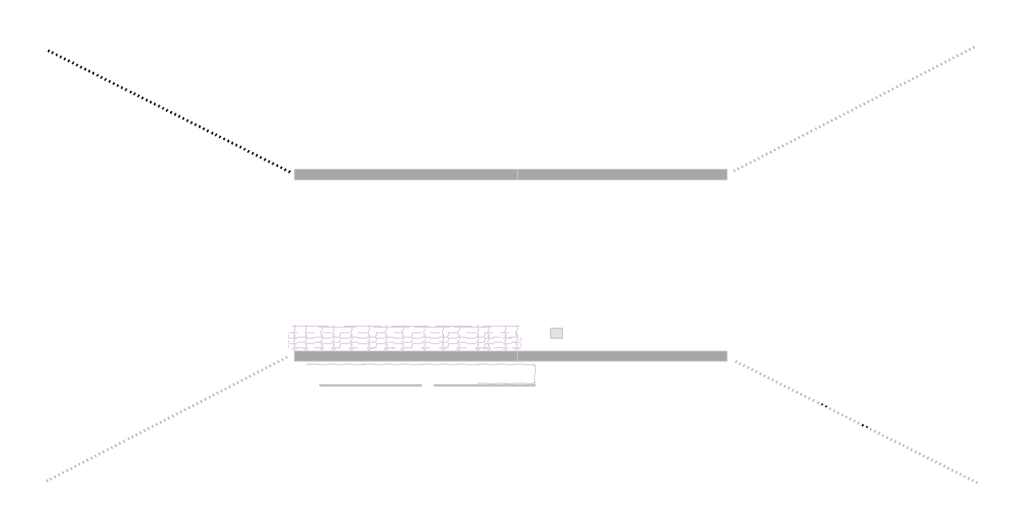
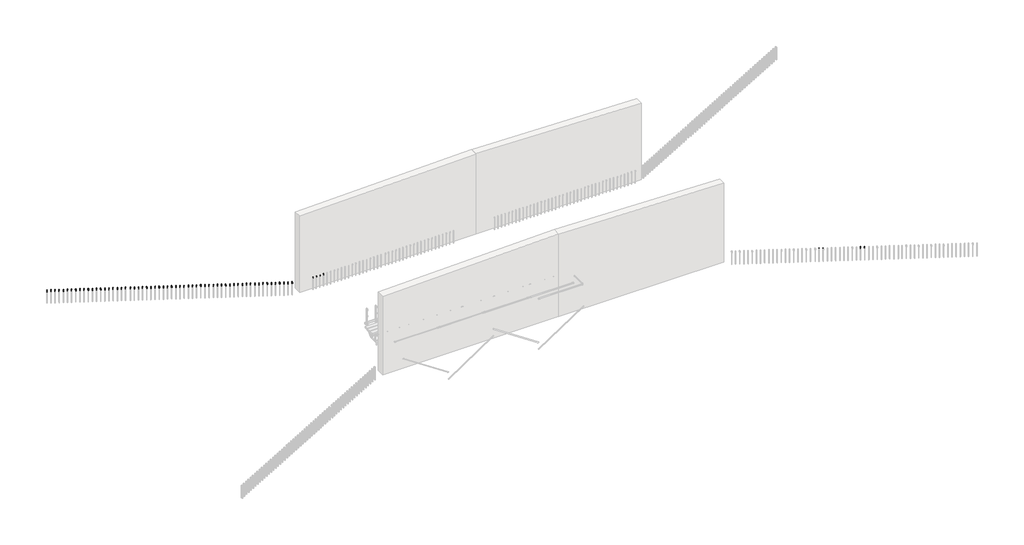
# One storey, part 5 of 7: 131 proxies.
"""IFC4 building model written with IfcOpenShell, lengths in millimetres."""

from ifc_helpers import new_model, si_unit, origin, place, context, project, spatial, transform, mapped, element, save
from components import generic_models_e9040c9c

model = new_model("IFC4")

# Units and contexts
model_context = context("Model", 3, world=origin())
ifc_project = project(units=[si_unit("LENGTHUNIT", "METRE", prefix="MILLI")], contexts=[model_context])

# Site, building, storey
site = spatial("IfcSite", under=ifc_project)
building = spatial("IfcBuilding", under=site)
storey = spatial("IfcBuildingStorey", under=building, Name="Niveau bas piédroits", Elevation=1000.0)

# Proxies
placement = place(None, origin())
generic_models_shape = generic_models_e9040c9c(model_context)
element("IfcBuildingElementProxy", 1, Name="Bouchon de sécurité vertical : Bouchon de sécurité vertical", ObjectType="Bouchon de sécurité vertical : Bouchon de sécurité vertical", at=placement, inside=storey, context=model_context, shape_type="MappedRepresentation", body=[
    mapped(generic_models_shape, transform((-22055.3075306, 10497.7080647, 1504.6594135), x_axis=(0.8933406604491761, -0.449380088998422, 0.0), y_axis=(0.449380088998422, 0.8933406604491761, 0.0), z_axis=(0.0, 0.0, 1.0))),
])
element("IfcBuildingElementProxy", 2, Name="Bouchon de sécurité vertical : Bouchon de sécurité vertical", ObjectType="Bouchon de sécurité vertical : Bouchon de sécurité vertical", at=placement, inside=storey, context=model_context, shape_type="MappedRepresentation", body=[
    mapped(generic_models_shape, transform((-22269.7092891, 10605.5592861, 1504.6594135), x_axis=(0.8933406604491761, -0.449380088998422, 0.0), y_axis=(0.449380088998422, 0.8933406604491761, 0.0), z_axis=(0.0, 0.0, 1.0))),
])
element("IfcBuildingElementProxy", 3, Name="Bouchon de sécurité vertical : Bouchon de sécurité vertical", ObjectType="Bouchon de sécurité vertical : Bouchon de sécurité vertical", at=placement, inside=storey, context=model_context, shape_type="MappedRepresentation", body=[
    mapped(generic_models_shape, transform((-22484.1110476, 10713.4105074, 1504.6594135), x_axis=(0.8933406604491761, -0.449380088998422, 0.0), y_axis=(0.449380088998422, 0.8933406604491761, 0.0), z_axis=(0.0, 0.0, 1.0))),
])
element("IfcBuildingElementProxy", 4, Name="Bouchon de sécurité vertical : Bouchon de sécurité vertical", ObjectType="Bouchon de sécurité vertical : Bouchon de sécurité vertical", at=placement, inside=storey, context=model_context, shape_type="MappedRepresentation", body=[
    mapped(generic_models_shape, transform((-22698.5128061, 10821.2617288, 1504.6594135), x_axis=(0.8933406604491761, -0.449380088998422, 0.0), y_axis=(0.449380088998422, 0.8933406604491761, 0.0), z_axis=(0.0, 0.0, 1.0))),
])
element("IfcBuildingElementProxy", 5, Name="Bouchon de sécurité vertical : Bouchon de sécurité vertical", ObjectType="Bouchon de sécurité vertical : Bouchon de sécurité vertical", at=placement, inside=storey, context=model_context, shape_type="MappedRepresentation", body=[
    mapped(generic_models_shape, transform((-22912.9145646, 10929.1129501, 1504.6594135), x_axis=(0.8933406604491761, -0.449380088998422, 0.0), y_axis=(0.449380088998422, 0.8933406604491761, 0.0), z_axis=(0.0, 0.0, 1.0))),
])
element("IfcBuildingElementProxy", 6, Name="Bouchon de sécurité vertical : Bouchon de sécurité vertical", ObjectType="Bouchon de sécurité vertical : Bouchon de sécurité vertical", at=placement, inside=storey, context=model_context, shape_type="MappedRepresentation", body=[
    mapped(generic_models_shape, transform((-23127.3163231, 11036.9641715, 1504.6594135), x_axis=(0.8933406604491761, -0.449380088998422, 0.0), y_axis=(0.449380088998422, 0.8933406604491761, 0.0), z_axis=(0.0, 0.0, 1.0))),
])
element("IfcBuildingElementProxy", 7, Name="Bouchon de sécurité vertical : Bouchon de sécurité vertical", ObjectType="Bouchon de sécurité vertical : Bouchon de sécurité vertical", at=placement, inside=storey, context=model_context, shape_type="MappedRepresentation", body=[
    mapped(generic_models_shape, transform((-23341.7180816, 11144.8153929, 1504.6594135), x_axis=(0.8933406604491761, -0.449380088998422, 0.0), y_axis=(0.449380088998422, 0.8933406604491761, 0.0), z_axis=(0.0, 0.0, 1.0))),
])
element("IfcBuildingElementProxy", 8, Name="Bouchon de sécurité vertical : Bouchon de sécurité vertical", ObjectType="Bouchon de sécurité vertical : Bouchon de sécurité vertical", at=placement, inside=storey, context=model_context, shape_type="MappedRepresentation", body=[
    mapped(generic_models_shape, transform((-23556.1198401, 11252.6666142, 1504.6594135), x_axis=(0.8933406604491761, -0.449380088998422, 0.0), y_axis=(0.449380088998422, 0.8933406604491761, 0.0), z_axis=(0.0, 0.0, 1.0))),
])
element("IfcBuildingElementProxy", 9, Name="Bouchon de sécurité vertical : Bouchon de sécurité vertical", ObjectType="Bouchon de sécurité vertical : Bouchon de sécurité vertical", at=placement, inside=storey, context=model_context, shape_type="MappedRepresentation", body=[
    mapped(generic_models_shape, transform((-23770.5215987, 11360.5178356, 1504.6594135), x_axis=(0.8933406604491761, -0.449380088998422, 0.0), y_axis=(0.449380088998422, 0.8933406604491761, 0.0), z_axis=(0.0, 0.0, 1.0))),
])
element("IfcBuildingElementProxy", 10, Name="Bouchon de sécurité vertical : Bouchon de sécurité vertical", ObjectType="Bouchon de sécurité vertical : Bouchon de sécurité vertical", at=placement, inside=storey, context=model_context, shape_type="MappedRepresentation", body=[
    mapped(generic_models_shape, transform((-23984.9233572, 11468.3690569, 1504.6594135), x_axis=(0.8933406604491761, -0.449380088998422, 0.0), y_axis=(0.449380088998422, 0.8933406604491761, 0.0), z_axis=(0.0, 0.0, 1.0))),
])
element("IfcBuildingElementProxy", 11, Name="Bouchon de sécurité vertical : Bouchon de sécurité vertical", ObjectType="Bouchon de sécurité vertical : Bouchon de sécurité vertical", at=placement, inside=storey, context=model_context, shape_type="MappedRepresentation", body=[
    mapped(generic_models_shape, transform((-24199.3251157, 11576.2202783, 1504.6594135), x_axis=(0.8933406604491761, -0.449380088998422, 0.0), y_axis=(0.449380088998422, 0.8933406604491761, 0.0), z_axis=(0.0, 0.0, 1.0))),
])
element("IfcBuildingElementProxy", 12, Name="Bouchon de sécurité vertical : Bouchon de sécurité vertical", ObjectType="Bouchon de sécurité vertical : Bouchon de sécurité vertical", at=placement, inside=storey, context=model_context, shape_type="MappedRepresentation", body=[
    mapped(generic_models_shape, transform((-24413.7268742, 11684.0714997, 1504.6594135), x_axis=(0.8933406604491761, -0.449380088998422, 0.0), y_axis=(0.449380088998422, 0.8933406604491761, 0.0), z_axis=(0.0, 0.0, 1.0))),
])
element("IfcBuildingElementProxy", 13, Name="Bouchon de sécurité vertical : Bouchon de sécurité vertical", ObjectType="Bouchon de sécurité vertical : Bouchon de sécurité vertical", at=placement, inside=storey, context=model_context, shape_type="MappedRepresentation", body=[
    mapped(generic_models_shape, transform((-24610.2618195, 11782.9351192, 1504.6594135), x_axis=(0.8933406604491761, -0.449380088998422, 0.0), y_axis=(0.449380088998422, 0.8933406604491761, 0.0), z_axis=(0.0, 0.0, 1.0))),
])
element("IfcBuildingElementProxy", 14, Name="Bouchon de sécurité vertical : Bouchon de sécurité vertical", ObjectType="Bouchon de sécurité vertical : Bouchon de sécurité vertical", at=placement, inside=storey, context=model_context, shape_type="MappedRepresentation", body=[
    mapped(generic_models_shape, transform((-21840.9057721, 10389.8568434, 1504.6594135), x_axis=(0.8933406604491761, -0.449380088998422, 0.0), y_axis=(0.449380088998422, 0.8933406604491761, 0.0), z_axis=(0.0, 0.0, 1.0))),
])
element("IfcBuildingElementProxy", 15, Name="Bouchon de sécurité vertical : Bouchon de sécurité vertical", ObjectType="Bouchon de sécurité vertical : Bouchon de sécurité vertical", at=placement, inside=storey, context=model_context, shape_type="MappedRepresentation", body=[
    mapped(generic_models_shape, transform((-21626.5040136, 10282.005622, 1504.6594135), x_axis=(0.8933406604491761, -0.449380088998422, 0.0), y_axis=(0.449380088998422, 0.8933406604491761, 0.0), z_axis=(0.0, 0.0, 1.0))),
])
element("IfcBuildingElementProxy", 16, Name="Bouchon de sécurité vertical : Bouchon de sécurité vertical", ObjectType="Bouchon de sécurité vertical : Bouchon de sécurité vertical", at=placement, inside=storey, context=model_context, shape_type="MappedRepresentation", body=[
    mapped(generic_models_shape, transform((-20304.2830758, 9616.8844773, 1504.6594135), x_axis=(0.8933406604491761, -0.449380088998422, 0.0), y_axis=(0.449380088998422, 0.8933406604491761, 0.0), z_axis=(0.0, 0.0, 1.0))),
])
element("IfcBuildingElementProxy", 17, Name="Bouchon de sécurité vertical : Bouchon de sécurité vertical", ObjectType="Bouchon de sécurité vertical : Bouchon de sécurité vertical", at=placement, inside=storey, context=model_context, shape_type="MappedRepresentation", body=[
    mapped(generic_models_shape, transform((-20554.495221, 9742.7495152, 1504.6594135), x_axis=(0.8933406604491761, -0.449380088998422, 0.0), y_axis=(0.449380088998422, 0.8933406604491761, 0.0), z_axis=(0.0, 0.0, 1.0))),
])
element("IfcBuildingElementProxy", 18, Name="Bouchon de sécurité vertical : Bouchon de sécurité vertical", ObjectType="Bouchon de sécurité vertical : Bouchon de sécurité vertical", at=placement, inside=storey, context=model_context, shape_type="MappedRepresentation", body=[
    mapped(generic_models_shape, transform((-20768.8969795, 9850.6007366, 1504.6594135), x_axis=(0.8933406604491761, -0.449380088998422, 0.0), y_axis=(0.449380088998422, 0.8933406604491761, 0.0), z_axis=(0.0, 0.0, 1.0))),
])
element("IfcBuildingElementProxy", 19, Name="Bouchon de sécurité vertical : Bouchon de sécurité vertical", ObjectType="Bouchon de sécurité vertical : Bouchon de sécurité vertical", at=placement, inside=storey, context=model_context, shape_type="MappedRepresentation", body=[
    mapped(generic_models_shape, transform((-20983.2987381, 9958.4519579, 1504.6594135), x_axis=(0.8933406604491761, -0.449380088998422, 0.0), y_axis=(0.449380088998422, 0.8933406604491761, 0.0), z_axis=(0.0, 0.0, 1.0))),
])
element("IfcBuildingElementProxy", 20, Name="Bouchon de sécurité vertical : Bouchon de sécurité vertical", ObjectType="Bouchon de sécurité vertical : Bouchon de sécurité vertical", at=placement, inside=storey, context=model_context, shape_type="MappedRepresentation", body=[
    mapped(generic_models_shape, transform((-21197.7004966, 10066.3031793, 1504.6594135), x_axis=(0.8933406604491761, -0.449380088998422, 0.0), y_axis=(0.449380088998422, 0.8933406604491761, 0.0), z_axis=(0.0, 0.0, 1.0))),
])
element("IfcBuildingElementProxy", 21, Name="Bouchon de sécurité vertical : Bouchon de sécurité vertical", ObjectType="Bouchon de sécurité vertical : Bouchon de sécurité vertical", at=placement, inside=storey, context=model_context, shape_type="MappedRepresentation", body=[
    mapped(generic_models_shape, transform((-21412.1022551, 10174.1544006, 1504.6594135), x_axis=(0.8933406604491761, -0.449380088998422, 0.0), y_axis=(0.449380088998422, 0.8933406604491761, 0.0), z_axis=(0.0, 0.0, 1.0))),
])
element("IfcBuildingElementProxy", 22, Name="Bouchon de sécurité vertical : Bouchon de sécurité vertical", ObjectType="Bouchon de sécurité vertical : Bouchon de sécurité vertical", at=placement, inside=storey, context=model_context, shape_type="MappedRepresentation", body=[
    mapped(generic_models_shape, transform((-20107.8248908, 9518.0594707, 1504.6594135), x_axis=(0.8933406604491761, -0.449380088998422, 0.0), y_axis=(0.449380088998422, 0.8933406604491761, 0.0), z_axis=(0.0, 0.0, 1.0))),
])
element("IfcBuildingElementProxy", 23, Name="Bouchon de sécurité vertical : Bouchon de sécurité vertical", ObjectType="Bouchon de sécurité vertical : Bouchon de sécurité vertical", at=placement, inside=storey, context=model_context, shape_type="MappedRepresentation", body=[
    mapped(generic_models_shape, transform((-19893.4231323, 9410.2082493, 1504.6594135), x_axis=(0.8933406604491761, -0.449380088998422, 0.0), y_axis=(0.449380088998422, 0.8933406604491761, 0.0), z_axis=(0.0, 0.0, 1.0))),
])
element("IfcBuildingElementProxy", 24, Name="Bouchon de sécurité vertical : Bouchon de sécurité vertical", ObjectType="Bouchon de sécurité vertical : Bouchon de sécurité vertical", at=placement, inside=storey, context=model_context, shape_type="MappedRepresentation", body=[
    mapped(generic_models_shape, transform((-17320.6020302, 8115.993593, 1504.6594135), x_axis=(0.8933406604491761, -0.449380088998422, 0.0), y_axis=(0.449380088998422, 0.8933406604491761, 0.0), z_axis=(0.0, 0.0, 1.0))),
])
element("IfcBuildingElementProxy", 25, Name="Bouchon de sécurité vertical : Bouchon de sécurité vertical", ObjectType="Bouchon de sécurité vertical : Bouchon de sécurité vertical", at=placement, inside=storey, context=model_context, shape_type="MappedRepresentation", body=[
    mapped(generic_models_shape, transform((-17535.0037887, 8223.8448144, 1504.6594135), x_axis=(0.8933406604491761, -0.449380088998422, 0.0), y_axis=(0.449380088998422, 0.8933406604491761, 0.0), z_axis=(0.0, 0.0, 1.0))),
])
element("IfcBuildingElementProxy", 26, Name="Bouchon de sécurité vertical : Bouchon de sécurité vertical", ObjectType="Bouchon de sécurité vertical : Bouchon de sécurité vertical", at=placement, inside=storey, context=model_context, shape_type="MappedRepresentation", body=[
    mapped(generic_models_shape, transform((-17749.4055472, 8331.6960357, 1504.6594135), x_axis=(0.8933406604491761, -0.449380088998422, 0.0), y_axis=(0.449380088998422, 0.8933406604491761, 0.0), z_axis=(0.0, 0.0, 1.0))),
])
element("IfcBuildingElementProxy", 27, Name="Bouchon de sécurité vertical : Bouchon de sécurité vertical", ObjectType="Bouchon de sécurité vertical : Bouchon de sécurité vertical", at=placement, inside=storey, context=model_context, shape_type="MappedRepresentation", body=[
    mapped(generic_models_shape, transform((-17963.8073057, 8439.5472571, 1504.6594135), x_axis=(0.8933406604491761, -0.449380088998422, 0.0), y_axis=(0.449380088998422, 0.8933406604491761, 0.0), z_axis=(0.0, 0.0, 1.0))),
])
element("IfcBuildingElementProxy", 28, Name="Bouchon de sécurité vertical : Bouchon de sécurité vertical", ObjectType="Bouchon de sécurité vertical : Bouchon de sécurité vertical", at=placement, inside=storey, context=model_context, shape_type="MappedRepresentation", body=[
    mapped(generic_models_shape, transform((-18178.2090642, 8547.3984785, 1504.6594135), x_axis=(0.8933406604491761, -0.449380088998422, 0.0), y_axis=(0.449380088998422, 0.8933406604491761, 0.0), z_axis=(0.0, 0.0, 1.0))),
])
element("IfcBuildingElementProxy", 29, Name="Bouchon de sécurité vertical : Bouchon de sécurité vertical", ObjectType="Bouchon de sécurité vertical : Bouchon de sécurité vertical", at=placement, inside=storey, context=model_context, shape_type="MappedRepresentation", body=[
    mapped(generic_models_shape, transform((-18392.6108228, 8655.2496998, 1504.6594135), x_axis=(0.8933406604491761, -0.449380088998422, 0.0), y_axis=(0.449380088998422, 0.8933406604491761, 0.0), z_axis=(0.0, 0.0, 1.0))),
])
element("IfcBuildingElementProxy", 30, Name="Bouchon de sécurité vertical : Bouchon de sécurité vertical", ObjectType="Bouchon de sécurité vertical : Bouchon de sécurité vertical", at=placement, inside=storey, context=model_context, shape_type="MappedRepresentation", body=[
    mapped(generic_models_shape, transform((-17106.2002717, 8008.1423717, 1504.6594135), x_axis=(0.8933406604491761, -0.449380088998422, 0.0), y_axis=(0.449380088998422, 0.8933406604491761, 0.0), z_axis=(0.0, 0.0, 1.0))),
])
element("IfcBuildingElementProxy", 31, Name="Bouchon de sécurité vertical : Bouchon de sécurité vertical", ObjectType="Bouchon de sécurité vertical : Bouchon de sécurité vertical", at=placement, inside=storey, context=model_context, shape_type="MappedRepresentation", body=[
    mapped(generic_models_shape, transform((-16891.7985132, 7900.2911503, 1504.6594135), x_axis=(0.8933406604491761, -0.449380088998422, 0.0), y_axis=(0.449380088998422, 0.8933406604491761, 0.0), z_axis=(0.0, 0.0, 1.0))),
])
element("IfcBuildingElementProxy", 32, Name="Bouchon de sécurité vertical : Bouchon de sécurité vertical", ObjectType="Bouchon de sécurité vertical : Bouchon de sécurité vertical", at=placement, inside=storey, context=model_context, shape_type="MappedRepresentation", body=[
    mapped(generic_models_shape, transform((-19679.0213738, 9302.357028, 1504.6594135), x_axis=(0.8933406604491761, -0.449380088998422, 0.0), y_axis=(0.449380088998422, 0.8933406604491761, 0.0), z_axis=(0.0, 0.0, 1.0))),
])
element("IfcBuildingElementProxy", 33, Name="Bouchon de sécurité vertical : Bouchon de sécurité vertical", ObjectType="Bouchon de sécurité vertical : Bouchon de sécurité vertical", at=placement, inside=storey, context=model_context, shape_type="MappedRepresentation", body=[
    mapped(generic_models_shape, transform((-19464.6196153, 9194.5058066, 1504.6594135), x_axis=(0.8933406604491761, -0.449380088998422, 0.0), y_axis=(0.449380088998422, 0.8933406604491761, 0.0), z_axis=(0.0, 0.0, 1.0))),
])
element("IfcBuildingElementProxy", 34, Name="Bouchon de sécurité vertical : Bouchon de sécurité vertical", ObjectType="Bouchon de sécurité vertical : Bouchon de sécurité vertical", at=placement, inside=storey, context=model_context, shape_type="MappedRepresentation", body=[
    mapped(generic_models_shape, transform((-19250.2178568, 9086.6545853, 1504.6594135), x_axis=(0.8933406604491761, -0.449380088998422, 0.0), y_axis=(0.449380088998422, 0.8933406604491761, 0.0), z_axis=(0.0, 0.0, 1.0))),
])
element("IfcBuildingElementProxy", 35, Name="Bouchon de sécurité vertical : Bouchon de sécurité vertical", ObjectType="Bouchon de sécurité vertical : Bouchon de sécurité vertical", at=placement, inside=storey, context=model_context, shape_type="MappedRepresentation", body=[
    mapped(generic_models_shape, transform((-19035.8160983, 8978.8033639, 1504.6594135), x_axis=(0.8933406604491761, -0.449380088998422, 0.0), y_axis=(0.449380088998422, 0.8933406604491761, 0.0), z_axis=(0.0, 0.0, 1.0))),
])
element("IfcBuildingElementProxy", 36, Name="Bouchon de sécurité vertical : Bouchon de sécurité vertical", ObjectType="Bouchon de sécurité vertical : Bouchon de sécurité vertical", at=placement, inside=storey, context=model_context, shape_type="MappedRepresentation", body=[
    mapped(generic_models_shape, transform((-18821.8951532, 8871.1940077, 1504.6594135), x_axis=(0.8933406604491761, -0.449380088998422, 0.0), y_axis=(0.449380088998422, 0.8933406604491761, 0.0), z_axis=(0.0, 0.0, 1.0))),
])
element("IfcBuildingElementProxy", 37, Name="Bouchon de sécurité vertical : Bouchon de sécurité vertical", ObjectType="Bouchon de sécurité vertical : Bouchon de sécurité vertical", at=placement, inside=storey, context=model_context, shape_type="MappedRepresentation", body=[
    mapped(generic_models_shape, transform((-18607.4933947, 8763.3427864, 1504.6594135), x_axis=(0.8933406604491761, -0.449380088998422, 0.0), y_axis=(0.449380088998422, 0.8933406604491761, 0.0), z_axis=(0.0, 0.0, 1.0))),
])
element("IfcBuildingElementProxy", 38, Name="Bouchon de sécurité vertical : Bouchon de sécurité vertical", ObjectType="Bouchon de sécurité vertical : Bouchon de sécurité vertical", at=placement, inside=storey, context=model_context, shape_type="MappedRepresentation", body=[
    mapped(generic_models_shape, transform((-16677.3967547, 7792.4399289, 1504.6594135), x_axis=(0.8933406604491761, -0.449380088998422, 0.0), y_axis=(0.449380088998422, 0.8933406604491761, 0.0), z_axis=(0.0, 0.0, 1.0))),
])
element("IfcBuildingElementProxy", 39, Name="Bouchon de sécurité vertical : Bouchon de sécurité vertical", ObjectType="Bouchon de sécurité vertical : Bouchon de sécurité vertical", at=placement, inside=storey, context=model_context, shape_type="MappedRepresentation", body=[
    mapped(generic_models_shape, transform((-16462.9949962, 7684.5887076, 1504.6594135), x_axis=(0.8933406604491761, -0.449380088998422, 0.0), y_axis=(0.449380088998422, 0.8933406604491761, 0.0), z_axis=(0.0, 0.0, 1.0))),
])
element("IfcBuildingElementProxy", 40, Name="Bouchon de sécurité vertical : Bouchon de sécurité vertical", ObjectType="Bouchon de sécurité vertical : Bouchon de sécurité vertical", at=placement, inside=storey, context=model_context, shape_type="MappedRepresentation", body=[
    mapped(generic_models_shape, transform((-16248.5932377, 7576.7374862, 1504.6594135), x_axis=(0.8933406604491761, -0.449380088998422, 0.0), y_axis=(0.449380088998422, 0.8933406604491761, 0.0), z_axis=(0.0, 0.0, 1.0))),
])
element("IfcBuildingElementProxy", 41, Name="Bouchon de sécurité vertical : Bouchon de sécurité vertical", ObjectType="Bouchon de sécurité vertical : Bouchon de sécurité vertical", at=placement, inside=storey, context=model_context, shape_type="MappedRepresentation", body=[
    mapped(generic_models_shape, transform((-22030.5916257, 10546.841801, 1504.6594135), x_axis=(0.8933406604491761, -0.449380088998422, 0.0), y_axis=(0.449380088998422, 0.8933406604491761, 0.0), z_axis=(0.0, 0.0, 1.0))),
])
element("IfcBuildingElementProxy", 42, Name="Bouchon de sécurité vertical : Bouchon de sécurité vertical", ObjectType="Bouchon de sécurité vertical : Bouchon de sécurité vertical", at=placement, inside=storey, context=model_context, shape_type="MappedRepresentation", body=[
    mapped(generic_models_shape, transform((-22244.9933842, 10654.6930224, 1504.6594135), x_axis=(0.8933406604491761, -0.449380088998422, 0.0), y_axis=(0.449380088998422, 0.8933406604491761, 0.0), z_axis=(0.0, 0.0, 1.0))),
])
element("IfcBuildingElementProxy", 43, Name="Bouchon de sécurité vertical : Bouchon de sécurité vertical", ObjectType="Bouchon de sécurité vertical : Bouchon de sécurité vertical", at=placement, inside=storey, context=model_context, shape_type="MappedRepresentation", body=[
    mapped(generic_models_shape, transform((-22459.3951427, 10762.5442438, 1504.6594135), x_axis=(0.8933406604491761, -0.449380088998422, 0.0), y_axis=(0.449380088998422, 0.8933406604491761, 0.0), z_axis=(0.0, 0.0, 1.0))),
])
element("IfcBuildingElementProxy", 44, Name="Bouchon de sécurité vertical : Bouchon de sécurité vertical", ObjectType="Bouchon de sécurité vertical : Bouchon de sécurité vertical", at=placement, inside=storey, context=model_context, shape_type="MappedRepresentation", body=[
    mapped(generic_models_shape, transform((-22673.7969012, 10870.3954651, 1504.6594135), x_axis=(0.8933406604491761, -0.449380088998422, 0.0), y_axis=(0.449380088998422, 0.8933406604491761, 0.0), z_axis=(0.0, 0.0, 1.0))),
])
element("IfcBuildingElementProxy", 45, Name="Bouchon de sécurité vertical : Bouchon de sécurité vertical", ObjectType="Bouchon de sécurité vertical : Bouchon de sécurité vertical", at=placement, inside=storey, context=model_context, shape_type="MappedRepresentation", body=[
    mapped(generic_models_shape, transform((-22888.1986597, 10978.2466865, 1504.6594135), x_axis=(0.8933406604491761, -0.449380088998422, 0.0), y_axis=(0.449380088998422, 0.8933406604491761, 0.0), z_axis=(0.0, 0.0, 1.0))),
])
element("IfcBuildingElementProxy", 46, Name="Bouchon de sécurité vertical : Bouchon de sécurité vertical", ObjectType="Bouchon de sécurité vertical : Bouchon de sécurité vertical", at=placement, inside=storey, context=model_context, shape_type="MappedRepresentation", body=[
    mapped(generic_models_shape, transform((-23102.6004182, 11086.0979078, 1504.6594135), x_axis=(0.8933406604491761, -0.449380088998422, 0.0), y_axis=(0.449380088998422, 0.8933406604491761, 0.0), z_axis=(0.0, 0.0, 1.0))),
])
element("IfcBuildingElementProxy", 47, Name="Bouchon de sécurité vertical : Bouchon de sécurité vertical", ObjectType="Bouchon de sécurité vertical : Bouchon de sécurité vertical", at=placement, inside=storey, context=model_context, shape_type="MappedRepresentation", body=[
    mapped(generic_models_shape, transform((-23317.0021767, 11193.9491292, 1504.6594135), x_axis=(0.8933406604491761, -0.449380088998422, 0.0), y_axis=(0.449380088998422, 0.8933406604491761, 0.0), z_axis=(0.0, 0.0, 1.0))),
])
element("IfcBuildingElementProxy", 48, Name="Bouchon de sécurité vertical : Bouchon de sécurité vertical", ObjectType="Bouchon de sécurité vertical : Bouchon de sécurité vertical", at=placement, inside=storey, context=model_context, shape_type="MappedRepresentation", body=[
    mapped(generic_models_shape, transform((-23531.4039353, 11301.8003506, 1504.6594135), x_axis=(0.8933406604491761, -0.449380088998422, 0.0), y_axis=(0.449380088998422, 0.8933406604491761, 0.0), z_axis=(0.0, 0.0, 1.0))),
])
element("IfcBuildingElementProxy", 49, Name="Bouchon de sécurité vertical : Bouchon de sécurité vertical", ObjectType="Bouchon de sécurité vertical : Bouchon de sécurité vertical", at=placement, inside=storey, context=model_context, shape_type="MappedRepresentation", body=[
    mapped(generic_models_shape, transform((-23745.8056938, 11409.6515719, 1504.6594135), x_axis=(0.8933406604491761, -0.449380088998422, 0.0), y_axis=(0.449380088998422, 0.8933406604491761, 0.0), z_axis=(0.0, 0.0, 1.0))),
])
element("IfcBuildingElementProxy", 50, Name="Bouchon de sécurité vertical : Bouchon de sécurité vertical", ObjectType="Bouchon de sécurité vertical : Bouchon de sécurité vertical", at=placement, inside=storey, context=model_context, shape_type="MappedRepresentation", body=[
    mapped(generic_models_shape, transform((-23960.2074523, 11517.5027933, 1504.6594135), x_axis=(0.8933406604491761, -0.449380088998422, 0.0), y_axis=(0.449380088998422, 0.8933406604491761, 0.0), z_axis=(0.0, 0.0, 1.0))),
])
element("IfcBuildingElementProxy", 51, Name="Bouchon de sécurité vertical : Bouchon de sécurité vertical", ObjectType="Bouchon de sécurité vertical : Bouchon de sécurité vertical", at=placement, inside=storey, context=model_context, shape_type="MappedRepresentation", body=[
    mapped(generic_models_shape, transform((-24174.6092108, 11625.3540146, 1504.6594135), x_axis=(0.8933406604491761, -0.449380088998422, 0.0), y_axis=(0.449380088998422, 0.8933406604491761, 0.0), z_axis=(0.0, 0.0, 1.0))),
])
element("IfcBuildingElementProxy", 52, Name="Bouchon de sécurité vertical : Bouchon de sécurité vertical", ObjectType="Bouchon de sécurité vertical : Bouchon de sécurité vertical", at=placement, inside=storey, context=model_context, shape_type="MappedRepresentation", body=[
    mapped(generic_models_shape, transform((-24389.0109693, 11733.205236, 1504.6594135), x_axis=(0.8933406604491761, -0.449380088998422, 0.0), y_axis=(0.449380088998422, 0.8933406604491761, 0.0), z_axis=(0.0, 0.0, 1.0))),
])
element("IfcBuildingElementProxy", 53, Name="Bouchon de sécurité vertical : Bouchon de sécurité vertical", ObjectType="Bouchon de sécurité vertical : Bouchon de sécurité vertical", at=placement, inside=storey, context=model_context, shape_type="MappedRepresentation", body=[
    mapped(generic_models_shape, transform((-24585.5459146, 11832.0688556, 1504.6594135), x_axis=(0.8933406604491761, -0.449380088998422, 0.0), y_axis=(0.449380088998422, 0.8933406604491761, 0.0), z_axis=(0.0, 0.0, 1.0))),
])
element("IfcBuildingElementProxy", 54, Name="Bouchon de sécurité vertical : Bouchon de sécurité vertical", ObjectType="Bouchon de sécurité vertical : Bouchon de sécurité vertical", at=placement, inside=storey, context=model_context, shape_type="MappedRepresentation", body=[
    mapped(generic_models_shape, transform((-21816.1898672, 10438.9905797, 1504.6594135), x_axis=(0.8933406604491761, -0.449380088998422, 0.0), y_axis=(0.449380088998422, 0.8933406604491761, 0.0), z_axis=(0.0, 0.0, 1.0))),
])
element("IfcBuildingElementProxy", 55, Name="Bouchon de sécurité vertical : Bouchon de sécurité vertical", ObjectType="Bouchon de sécurité vertical : Bouchon de sécurité vertical", at=placement, inside=storey, context=model_context, shape_type="MappedRepresentation", body=[
    mapped(generic_models_shape, transform((-21601.7881087, 10331.1393583, 1504.6594135), x_axis=(0.8933406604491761, -0.449380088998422, 0.0), y_axis=(0.449380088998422, 0.8933406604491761, 0.0), z_axis=(0.0, 0.0, 1.0))),
])
element("IfcBuildingElementProxy", 56, Name="Bouchon de sécurité vertical : Bouchon de sécurité vertical", ObjectType="Bouchon de sécurité vertical : Bouchon de sécurité vertical", at=placement, inside=storey, context=model_context, shape_type="MappedRepresentation", body=[
    mapped(generic_models_shape, transform((-20279.567171, 9666.0182136, 1504.6594135), x_axis=(0.8933406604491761, -0.449380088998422, 0.0), y_axis=(0.449380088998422, 0.8933406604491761, 0.0), z_axis=(0.0, 0.0, 1.0))),
])
element("IfcBuildingElementProxy", 57, Name="Bouchon de sécurité vertical : Bouchon de sécurité vertical", ObjectType="Bouchon de sécurité vertical : Bouchon de sécurité vertical", at=placement, inside=storey, context=model_context, shape_type="MappedRepresentation", body=[
    mapped(generic_models_shape, transform((-20529.7793161, 9791.8832515, 1504.6594135), x_axis=(0.8933406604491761, -0.449380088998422, 0.0), y_axis=(0.449380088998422, 0.8933406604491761, 0.0), z_axis=(0.0, 0.0, 1.0))),
])
element("IfcBuildingElementProxy", 58, Name="Bouchon de sécurité vertical : Bouchon de sécurité vertical", ObjectType="Bouchon de sécurité vertical : Bouchon de sécurité vertical", at=placement, inside=storey, context=model_context, shape_type="MappedRepresentation", body=[
    mapped(generic_models_shape, transform((-20744.1810747, 9899.7344729, 1504.6594135), x_axis=(0.8933406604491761, -0.449380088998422, 0.0), y_axis=(0.449380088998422, 0.8933406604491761, 0.0), z_axis=(0.0, 0.0, 1.0))),
])
element("IfcBuildingElementProxy", 59, Name="Bouchon de sécurité vertical : Bouchon de sécurité vertical", ObjectType="Bouchon de sécurité vertical : Bouchon de sécurité vertical", at=placement, inside=storey, context=model_context, shape_type="MappedRepresentation", body=[
    mapped(generic_models_shape, transform((-20958.5828332, 10007.5856942, 1504.6594135), x_axis=(0.8933406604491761, -0.449380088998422, 0.0), y_axis=(0.449380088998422, 0.8933406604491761, 0.0), z_axis=(0.0, 0.0, 1.0))),
])
element("IfcBuildingElementProxy", 60, Name="Bouchon de sécurité vertical : Bouchon de sécurité vertical", ObjectType="Bouchon de sécurité vertical : Bouchon de sécurité vertical", at=placement, inside=storey, context=model_context, shape_type="MappedRepresentation", body=[
    mapped(generic_models_shape, transform((-21172.9845917, 10115.4369156, 1504.6594135), x_axis=(0.8933406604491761, -0.449380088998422, 0.0), y_axis=(0.449380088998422, 0.8933406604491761, 0.0), z_axis=(0.0, 0.0, 1.0))),
])
element("IfcBuildingElementProxy", 61, Name="Bouchon de sécurité vertical : Bouchon de sécurité vertical", ObjectType="Bouchon de sécurité vertical : Bouchon de sécurité vertical", at=placement, inside=storey, context=model_context, shape_type="MappedRepresentation", body=[
    mapped(generic_models_shape, transform((-21387.3863502, 10223.288137, 1504.6594135), x_axis=(0.8933406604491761, -0.449380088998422, 0.0), y_axis=(0.449380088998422, 0.8933406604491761, 0.0), z_axis=(0.0, 0.0, 1.0))),
])
element("IfcBuildingElementProxy", 62, Name="Bouchon de sécurité vertical : Bouchon de sécurité vertical", ObjectType="Bouchon de sécurité vertical : Bouchon de sécurité vertical", at=placement, inside=storey, context=model_context, shape_type="MappedRepresentation", body=[
    mapped(generic_models_shape, transform((-20083.1089859, 9567.193207, 1504.6594135), x_axis=(0.8933406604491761, -0.449380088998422, 0.0), y_axis=(0.449380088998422, 0.8933406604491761, 0.0), z_axis=(0.0, 0.0, 1.0))),
])
element("IfcBuildingElementProxy", 63, Name="Bouchon de sécurité vertical : Bouchon de sécurité vertical", ObjectType="Bouchon de sécurité vertical : Bouchon de sécurité vertical", at=placement, inside=storey, context=model_context, shape_type="MappedRepresentation", body=[
    mapped(generic_models_shape, transform((-19868.7072274, 9459.3419857, 1504.6594135), x_axis=(0.8933406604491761, -0.449380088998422, 0.0), y_axis=(0.449380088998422, 0.8933406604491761, 0.0), z_axis=(0.0, 0.0, 1.0))),
])
element("IfcBuildingElementProxy", 64, Name="Bouchon de sécurité vertical : Bouchon de sécurité vertical", ObjectType="Bouchon de sécurité vertical : Bouchon de sécurité vertical", at=placement, inside=storey, context=model_context, shape_type="MappedRepresentation", body=[
    mapped(generic_models_shape, transform((-17295.8861253, 8165.1273293, 1504.6594135), x_axis=(0.8933406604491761, -0.449380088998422, 0.0), y_axis=(0.449380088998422, 0.8933406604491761, 0.0), z_axis=(0.0, 0.0, 1.0))),
])
element("IfcBuildingElementProxy", 65, Name="Bouchon de sécurité vertical : Bouchon de sécurité vertical", ObjectType="Bouchon de sécurité vertical : Bouchon de sécurité vertical", at=placement, inside=storey, context=model_context, shape_type="MappedRepresentation", body=[
    mapped(generic_models_shape, transform((-17510.2878838, 8272.9785507, 1504.6594135), x_axis=(0.8933406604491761, -0.449380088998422, 0.0), y_axis=(0.449380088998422, 0.8933406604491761, 0.0), z_axis=(0.0, 0.0, 1.0))),
])
element("IfcBuildingElementProxy", 66, Name="Bouchon de sécurité vertical : Bouchon de sécurité vertical", ObjectType="Bouchon de sécurité vertical : Bouchon de sécurité vertical", at=placement, inside=storey, context=model_context, shape_type="MappedRepresentation", body=[
    mapped(generic_models_shape, transform((-17724.6896423, 8380.8297721, 1504.6594135), x_axis=(0.8933406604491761, -0.449380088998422, 0.0), y_axis=(0.449380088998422, 0.8933406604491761, 0.0), z_axis=(0.0, 0.0, 1.0))),
])
element("IfcBuildingElementProxy", 67, Name="Bouchon de sécurité vertical : Bouchon de sécurité vertical", ObjectType="Bouchon de sécurité vertical : Bouchon de sécurité vertical", at=placement, inside=storey, context=model_context, shape_type="MappedRepresentation", body=[
    mapped(generic_models_shape, transform((-17939.0914008, 8488.6809934, 1504.6594135), x_axis=(0.8933406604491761, -0.449380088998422, 0.0), y_axis=(0.449380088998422, 0.8933406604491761, 0.0), z_axis=(0.0, 0.0, 1.0))),
])
element("IfcBuildingElementProxy", 68, Name="Bouchon de sécurité vertical : Bouchon de sécurité vertical", ObjectType="Bouchon de sécurité vertical : Bouchon de sécurité vertical", at=placement, inside=storey, context=model_context, shape_type="MappedRepresentation", body=[
    mapped(generic_models_shape, transform((-18153.4931593, 8596.5322148, 1504.6594135), x_axis=(0.8933406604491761, -0.449380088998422, 0.0), y_axis=(0.449380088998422, 0.8933406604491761, 0.0), z_axis=(0.0, 0.0, 1.0))),
])
element("IfcBuildingElementProxy", 69, Name="Bouchon de sécurité vertical : Bouchon de sécurité vertical", ObjectType="Bouchon de sécurité vertical : Bouchon de sécurité vertical", at=placement, inside=storey, context=model_context, shape_type="MappedRepresentation", body=[
    mapped(generic_models_shape, transform((-18367.8949179, 8704.3834361, 1504.6594135), x_axis=(0.8933406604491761, -0.449380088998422, 0.0), y_axis=(0.449380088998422, 0.8933406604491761, 0.0), z_axis=(0.0, 0.0, 1.0))),
])
element("IfcBuildingElementProxy", 70, Name="Bouchon de sécurité vertical : Bouchon de sécurité vertical", ObjectType="Bouchon de sécurité vertical : Bouchon de sécurité vertical", at=placement, inside=storey, context=model_context, shape_type="MappedRepresentation", body=[
    mapped(generic_models_shape, transform((-17081.4843668, 8057.276108, 1504.6594135), x_axis=(0.8933406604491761, -0.449380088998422, 0.0), y_axis=(0.449380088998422, 0.8933406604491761, 0.0), z_axis=(0.0, 0.0, 1.0))),
])
element("IfcBuildingElementProxy", 71, Name="Bouchon de sécurité vertical : Bouchon de sécurité vertical", ObjectType="Bouchon de sécurité vertical : Bouchon de sécurité vertical", at=placement, inside=storey, context=model_context, shape_type="MappedRepresentation", body=[
    mapped(generic_models_shape, transform((-16867.0826083, 7949.4248866, 1504.6594135), x_axis=(0.8933406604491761, -0.449380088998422, 0.0), y_axis=(0.449380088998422, 0.8933406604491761, 0.0), z_axis=(0.0, 0.0, 1.0))),
])
element("IfcBuildingElementProxy", 72, Name="Bouchon de sécurité vertical : Bouchon de sécurité vertical", ObjectType="Bouchon de sécurité vertical : Bouchon de sécurité vertical", at=placement, inside=storey, context=model_context, shape_type="MappedRepresentation", body=[
    mapped(generic_models_shape, transform((-19654.3054689, 9351.4907643, 1504.6594135), x_axis=(0.8933406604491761, -0.449380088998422, 0.0), y_axis=(0.449380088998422, 0.8933406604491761, 0.0), z_axis=(0.0, 0.0, 1.0))),
])
element("IfcBuildingElementProxy", 73, Name="Bouchon de sécurité vertical : Bouchon de sécurité vertical", ObjectType="Bouchon de sécurité vertical : Bouchon de sécurité vertical", at=placement, inside=storey, context=model_context, shape_type="MappedRepresentation", body=[
    mapped(generic_models_shape, transform((-19439.9037104, 9243.6395429, 1504.6594135), x_axis=(0.8933406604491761, -0.449380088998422, 0.0), y_axis=(0.449380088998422, 0.8933406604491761, 0.0), z_axis=(0.0, 0.0, 1.0))),
])
element("IfcBuildingElementProxy", 74, Name="Bouchon de sécurité vertical : Bouchon de sécurité vertical", ObjectType="Bouchon de sécurité vertical : Bouchon de sécurité vertical", at=placement, inside=storey, context=model_context, shape_type="MappedRepresentation", body=[
    mapped(generic_models_shape, transform((-19225.5019519, 9135.7883216, 1504.6594135), x_axis=(0.8933406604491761, -0.449380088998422, 0.0), y_axis=(0.449380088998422, 0.8933406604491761, 0.0), z_axis=(0.0, 0.0, 1.0))),
])
element("IfcBuildingElementProxy", 75, Name="Bouchon de sécurité vertical : Bouchon de sécurité vertical", ObjectType="Bouchon de sécurité vertical : Bouchon de sécurité vertical", at=placement, inside=storey, context=model_context, shape_type="MappedRepresentation", body=[
    mapped(generic_models_shape, transform((-19011.1001934, 9027.9371002, 1504.6594135), x_axis=(0.8933406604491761, -0.449380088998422, 0.0), y_axis=(0.449380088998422, 0.8933406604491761, 0.0), z_axis=(0.0, 0.0, 1.0))),
])
element("IfcBuildingElementProxy", 76, Name="Bouchon de sécurité vertical : Bouchon de sécurité vertical", ObjectType="Bouchon de sécurité vertical : Bouchon de sécurité vertical", at=placement, inside=storey, context=model_context, shape_type="MappedRepresentation", body=[
    mapped(generic_models_shape, transform((-18797.1792483, 8920.327744, 1504.6594135), x_axis=(0.8933406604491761, -0.449380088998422, 0.0), y_axis=(0.449380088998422, 0.8933406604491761, 0.0), z_axis=(0.0, 0.0, 1.0))),
])
element("IfcBuildingElementProxy", 77, Name="Bouchon de sécurité vertical : Bouchon de sécurité vertical", ObjectType="Bouchon de sécurité vertical : Bouchon de sécurité vertical", at=placement, inside=storey, context=model_context, shape_type="MappedRepresentation", body=[
    mapped(generic_models_shape, transform((-18582.7774898, 8812.4765227, 1504.6594135), x_axis=(0.8933406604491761, -0.449380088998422, 0.0), y_axis=(0.449380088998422, 0.8933406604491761, 0.0), z_axis=(0.0, 0.0, 1.0))),
])
element("IfcBuildingElementProxy", 78, Name="Bouchon de sécurité vertical : Bouchon de sécurité vertical", ObjectType="Bouchon de sécurité vertical : Bouchon de sécurité vertical", at=placement, inside=storey, context=model_context, shape_type="MappedRepresentation", body=[
    mapped(generic_models_shape, transform((-16652.6808498, 7841.5736653, 1504.6594135), x_axis=(0.8933406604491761, -0.449380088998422, 0.0), y_axis=(0.449380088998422, 0.8933406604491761, 0.0), z_axis=(0.0, 0.0, 1.0))),
])
element("IfcBuildingElementProxy", 79, Name="Bouchon de sécurité vertical : Bouchon de sécurité vertical", ObjectType="Bouchon de sécurité vertical : Bouchon de sécurité vertical", at=placement, inside=storey, context=model_context, shape_type="MappedRepresentation", body=[
    mapped(generic_models_shape, transform((-16438.2790913, 7733.7224439, 1504.6594135), x_axis=(0.8933406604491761, -0.449380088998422, 0.0), y_axis=(0.449380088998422, 0.8933406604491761, 0.0), z_axis=(0.0, 0.0, 1.0))),
])
element("IfcBuildingElementProxy", 80, Name="Bouchon de sécurité vertical : Bouchon de sécurité vertical", ObjectType="Bouchon de sécurité vertical : Bouchon de sécurité vertical", at=placement, inside=storey, context=model_context, shape_type="MappedRepresentation", body=[
    mapped(generic_models_shape, transform((-16223.8773328, 7625.8712225, 1504.6594135), x_axis=(0.8933406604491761, -0.449380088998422, 0.0), y_axis=(0.449380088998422, 0.8933406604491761, 0.0), z_axis=(0.0, 0.0, 1.0))),
])
element("IfcBuildingElementProxy", 81, Name="Bouchon de sécurité vertical : Bouchon de sécurité vertical", ObjectType="Bouchon de sécurité vertical : Bouchon de sécurité vertical", at=placement, inside=storey, context=model_context, shape_type="MappedRepresentation", body=[
    mapped(generic_models_shape, transform((-13032.5668601, 5958.9691658, 1504.6594135), x_axis=(0.8933406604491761, -0.449380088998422, 0.0), y_axis=(0.449380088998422, 0.8933406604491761, 0.0), z_axis=(0.0, 0.0, 1.0))),
])
element("IfcBuildingElementProxy", 82, Name="Bouchon de sécurité vertical : Bouchon de sécurité vertical", ObjectType="Bouchon de sécurité vertical : Bouchon de sécurité vertical", at=placement, inside=storey, context=model_context, shape_type="MappedRepresentation", body=[
    mapped(generic_models_shape, transform((-13246.9686186, 6066.8203872, 1504.6594135), x_axis=(0.8933406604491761, -0.449380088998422, 0.0), y_axis=(0.449380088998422, 0.8933406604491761, 0.0), z_axis=(0.0, 0.0, 1.0))),
])
element("IfcBuildingElementProxy", 83, Name="Bouchon de sécurité vertical : Bouchon de sécurité vertical", ObjectType="Bouchon de sécurité vertical : Bouchon de sécurité vertical", at=placement, inside=storey, context=model_context, shape_type="MappedRepresentation", body=[
    mapped(generic_models_shape, transform((-13461.3703771, 6174.6716085, 1504.6594135), x_axis=(0.8933406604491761, -0.449380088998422, 0.0), y_axis=(0.449380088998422, 0.8933406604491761, 0.0), z_axis=(0.0, 0.0, 1.0))),
])
element("IfcBuildingElementProxy", 84, Name="Bouchon de sécurité vertical : Bouchon de sécurité vertical", ObjectType="Bouchon de sécurité vertical : Bouchon de sécurité vertical", at=placement, inside=storey, context=model_context, shape_type="MappedRepresentation", body=[
    mapped(generic_models_shape, transform((-13675.7721356, 6282.5228299, 1504.6594135), x_axis=(0.8933406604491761, -0.449380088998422, 0.0), y_axis=(0.449380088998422, 0.8933406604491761, 0.0), z_axis=(0.0, 0.0, 1.0))),
])
element("IfcBuildingElementProxy", 85, Name="Bouchon de sécurité vertical : Bouchon de sécurité vertical", ObjectType="Bouchon de sécurité vertical : Bouchon de sécurité vertical", at=placement, inside=storey, context=model_context, shape_type="MappedRepresentation", body=[
    mapped(generic_models_shape, transform((-13890.1738941, 6390.3740513, 1504.6594135), x_axis=(0.8933406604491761, -0.449380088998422, 0.0), y_axis=(0.449380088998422, 0.8933406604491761, 0.0), z_axis=(0.0, 0.0, 1.0))),
])
element("IfcBuildingElementProxy", 86, Name="Bouchon de sécurité vertical : Bouchon de sécurité vertical", ObjectType="Bouchon de sécurité vertical : Bouchon de sécurité vertical", at=placement, inside=storey, context=model_context, shape_type="MappedRepresentation", body=[
    mapped(generic_models_shape, transform((-14104.5756526, 6498.2252726, 1504.6594135), x_axis=(0.8933406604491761, -0.449380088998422, 0.0), y_axis=(0.449380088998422, 0.8933406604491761, 0.0), z_axis=(0.0, 0.0, 1.0))),
])
element("IfcBuildingElementProxy", 87, Name="Bouchon de sécurité vertical : Bouchon de sécurité vertical", ObjectType="Bouchon de sécurité vertical : Bouchon de sécurité vertical", at=placement, inside=storey, context=model_context, shape_type="MappedRepresentation", body=[
    mapped(generic_models_shape, transform((-12818.1651015, 5851.1179445, 1504.6594135), x_axis=(0.8933406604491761, -0.449380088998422, 0.0), y_axis=(0.449380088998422, 0.8933406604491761, 0.0), z_axis=(0.0, 0.0, 1.0))),
])
element("IfcBuildingElementProxy", 88, Name="Bouchon de sécurité vertical : Bouchon de sécurité vertical", ObjectType="Bouchon de sécurité vertical : Bouchon de sécurité vertical", at=placement, inside=storey, context=model_context, shape_type="MappedRepresentation", body=[
    mapped(generic_models_shape, transform((-12603.763343, 5743.2667231, 1504.6594135), x_axis=(0.8933406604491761, -0.449380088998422, 0.0), y_axis=(0.449380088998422, 0.8933406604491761, 0.0), z_axis=(0.0, 0.0, 1.0))),
])
element("IfcBuildingElementProxy", 89, Name="Bouchon de sécurité vertical : Bouchon de sécurité vertical", ObjectType="Bouchon de sécurité vertical : Bouchon de sécurité vertical", at=placement, inside=storey, context=model_context, shape_type="MappedRepresentation", body=[
    mapped(generic_models_shape, transform((-14533.8599831, 6714.1695805, 1504.6594135), x_axis=(0.8933406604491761, -0.449380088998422, 0.0), y_axis=(0.449380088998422, 0.8933406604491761, 0.0), z_axis=(0.0, 0.0, 1.0))),
])
element("IfcBuildingElementProxy", 90, Name="Bouchon de sécurité vertical : Bouchon de sécurité vertical", ObjectType="Bouchon de sécurité vertical : Bouchon de sécurité vertical", at=placement, inside=storey, context=model_context, shape_type="MappedRepresentation", body=[
    mapped(generic_models_shape, transform((-14319.4582246, 6606.3183592, 1504.6594135), x_axis=(0.8933406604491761, -0.449380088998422, 0.0), y_axis=(0.449380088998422, 0.8933406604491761, 0.0), z_axis=(0.0, 0.0, 1.0))),
])
element("IfcBuildingElementProxy", 91, Name="Bouchon de sécurité vertical : Bouchon de sécurité vertical", ObjectType="Bouchon de sécurité vertical : Bouchon de sécurité vertical", at=placement, inside=storey, context=model_context, shape_type="MappedRepresentation", body=[
    mapped(generic_models_shape, transform((-12389.3615845, 5635.4155017, 1504.6594135), x_axis=(0.8933406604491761, -0.449380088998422, 0.0), y_axis=(0.449380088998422, 0.8933406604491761, 0.0), z_axis=(0.0, 0.0, 1.0))),
])
element("IfcBuildingElementProxy", 92, Name="Bouchon de sécurité vertical : Bouchon de sécurité vertical", ObjectType="Bouchon de sécurité vertical : Bouchon de sécurité vertical", at=placement, inside=storey, context=model_context, shape_type="MappedRepresentation", body=[
    mapped(generic_models_shape, transform((-12174.959826, 5527.5642804, 1504.6594135), x_axis=(0.8933406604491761, -0.449380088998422, 0.0), y_axis=(0.449380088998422, 0.8933406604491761, 0.0), z_axis=(0.0, 0.0, 1.0))),
])
element("IfcBuildingElementProxy", 93, Name="Bouchon de sécurité vertical : Bouchon de sécurité vertical", ObjectType="Bouchon de sécurité vertical : Bouchon de sécurité vertical", at=placement, inside=storey, context=model_context, shape_type="MappedRepresentation", body=[
    mapped(generic_models_shape, transform((-11960.5580675, 5419.713059, 1504.6594135), x_axis=(0.8933406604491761, -0.449380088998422, 0.0), y_axis=(0.449380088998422, 0.8933406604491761, 0.0), z_axis=(0.0, 0.0, 1.0))),
])
element("IfcBuildingElementProxy", 94, Name="Bouchon de sécurité vertical : Bouchon de sécurité vertical", ObjectType="Bouchon de sécurité vertical : Bouchon de sécurité vertical", at=placement, inside=storey, context=model_context, shape_type="MappedRepresentation", body=[
    mapped(generic_models_shape, transform((-13007.8509552, 6008.1029022, 1504.6594135), x_axis=(0.8933406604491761, -0.449380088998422, 0.0), y_axis=(0.449380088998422, 0.8933406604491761, 0.0), z_axis=(0.0, 0.0, 1.0))),
])
element("IfcBuildingElementProxy", 95, Name="Bouchon de sécurité vertical : Bouchon de sécurité vertical", ObjectType="Bouchon de sécurité vertical : Bouchon de sécurité vertical", at=placement, inside=storey, context=model_context, shape_type="MappedRepresentation", body=[
    mapped(generic_models_shape, transform((-13222.2527137, 6115.9541235, 1504.6594135), x_axis=(0.8933406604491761, -0.449380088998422, 0.0), y_axis=(0.449380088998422, 0.8933406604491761, 0.0), z_axis=(0.0, 0.0, 1.0))),
])
element("IfcBuildingElementProxy", 96, Name="Bouchon de sécurité vertical : Bouchon de sécurité vertical", ObjectType="Bouchon de sécurité vertical : Bouchon de sécurité vertical", at=placement, inside=storey, context=model_context, shape_type="MappedRepresentation", body=[
    mapped(generic_models_shape, transform((-13436.6544722, 6223.8053449, 1504.6594135), x_axis=(0.8933406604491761, -0.449380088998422, 0.0), y_axis=(0.449380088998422, 0.8933406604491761, 0.0), z_axis=(0.0, 0.0, 1.0))),
])
element("IfcBuildingElementProxy", 97, Name="Bouchon de sécurité vertical : Bouchon de sécurité vertical", ObjectType="Bouchon de sécurité vertical : Bouchon de sécurité vertical", at=placement, inside=storey, context=model_context, shape_type="MappedRepresentation", body=[
    mapped(generic_models_shape, transform((-13651.0562307, 6331.6565662, 1504.6594135), x_axis=(0.8933406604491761, -0.449380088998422, 0.0), y_axis=(0.449380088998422, 0.8933406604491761, 0.0), z_axis=(0.0, 0.0, 1.0))),
])
element("IfcBuildingElementProxy", 98, Name="Bouchon de sécurité vertical : Bouchon de sécurité vertical", ObjectType="Bouchon de sécurité vertical : Bouchon de sécurité vertical", at=placement, inside=storey, context=model_context, shape_type="MappedRepresentation", body=[
    mapped(generic_models_shape, transform((-13865.4579892, 6439.5077876, 1504.6594135), x_axis=(0.8933406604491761, -0.449380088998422, 0.0), y_axis=(0.449380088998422, 0.8933406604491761, 0.0), z_axis=(0.0, 0.0, 1.0))),
])
element("IfcBuildingElementProxy", 99, Name="Bouchon de sécurité vertical : Bouchon de sécurité vertical", ObjectType="Bouchon de sécurité vertical : Bouchon de sécurité vertical", at=placement, inside=storey, context=model_context, shape_type="MappedRepresentation", body=[
    mapped(generic_models_shape, transform((-14079.8597477, 6547.3590089, 1504.6594135), x_axis=(0.8933406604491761, -0.449380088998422, 0.0), y_axis=(0.449380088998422, 0.8933406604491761, 0.0), z_axis=(0.0, 0.0, 1.0))),
])
element("IfcBuildingElementProxy", 100, Name="Bouchon de sécurité vertical : Bouchon de sécurité vertical", ObjectType="Bouchon de sécurité vertical : Bouchon de sécurité vertical", at=placement, inside=storey, context=model_context, shape_type="MappedRepresentation", body=[
    mapped(generic_models_shape, transform((-12793.4491967, 5900.2516808, 1504.6594135), x_axis=(0.8933406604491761, -0.449380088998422, 0.0), y_axis=(0.449380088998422, 0.8933406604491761, 0.0), z_axis=(0.0, 0.0, 1.0))),
])
element("IfcBuildingElementProxy", 101, Name="Bouchon de sécurité vertical : Bouchon de sécurité vertical", ObjectType="Bouchon de sécurité vertical : Bouchon de sécurité vertical", at=placement, inside=storey, context=model_context, shape_type="MappedRepresentation", body=[
    mapped(generic_models_shape, transform((-12579.0474381, 5792.4004594, 1504.6594135), x_axis=(0.8933406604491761, -0.449380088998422, 0.0), y_axis=(0.449380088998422, 0.8933406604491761, 0.0), z_axis=(0.0, 0.0, 1.0))),
])
element("IfcBuildingElementProxy", 102, Name="Bouchon de sécurité vertical : Bouchon de sécurité vertical", ObjectType="Bouchon de sécurité vertical : Bouchon de sécurité vertical", at=placement, inside=storey, context=model_context, shape_type="MappedRepresentation", body=[
    mapped(generic_models_shape, transform((-14509.1440782, 6763.3033168, 1504.6594135), x_axis=(0.8933406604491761, -0.449380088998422, 0.0), y_axis=(0.449380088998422, 0.8933406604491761, 0.0), z_axis=(0.0, 0.0, 1.0))),
])
element("IfcBuildingElementProxy", 103, Name="Bouchon de sécurité vertical : Bouchon de sécurité vertical", ObjectType="Bouchon de sécurité vertical : Bouchon de sécurité vertical", at=placement, inside=storey, context=model_context, shape_type="MappedRepresentation", body=[
    mapped(generic_models_shape, transform((-14294.7423197, 6655.4520955, 1504.6594135), x_axis=(0.8933406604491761, -0.449380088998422, 0.0), y_axis=(0.449380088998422, 0.8933406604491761, 0.0), z_axis=(0.0, 0.0, 1.0))),
])
element("IfcBuildingElementProxy", 104, Name="Bouchon de sécurité vertical : Bouchon de sécurité vertical", ObjectType="Bouchon de sécurité vertical : Bouchon de sécurité vertical", at=placement, inside=storey, context=model_context, shape_type="MappedRepresentation", body=[
    mapped(generic_models_shape, transform((-12364.6456796, 5684.5492381, 1504.6594135), x_axis=(0.8933406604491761, -0.449380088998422, 0.0), y_axis=(0.449380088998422, 0.8933406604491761, 0.0), z_axis=(0.0, 0.0, 1.0))),
])
element("IfcBuildingElementProxy", 105, Name="Bouchon de sécurité vertical : Bouchon de sécurité vertical", ObjectType="Bouchon de sécurité vertical : Bouchon de sécurité vertical", at=placement, inside=storey, context=model_context, shape_type="MappedRepresentation", body=[
    mapped(generic_models_shape, transform((-12150.2439211, 5576.6980167, 1504.6594135), x_axis=(0.8933406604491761, -0.449380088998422, 0.0), y_axis=(0.449380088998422, 0.8933406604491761, 0.0), z_axis=(0.0, 0.0, 1.0))),
])
element("IfcBuildingElementProxy", 106, Name="Bouchon de sécurité vertical : Bouchon de sécurité vertical", ObjectType="Bouchon de sécurité vertical : Bouchon de sécurité vertical", at=placement, inside=storey, context=model_context, shape_type="MappedRepresentation", body=[
    mapped(generic_models_shape, transform((-11935.8421626, 5468.8467954, 1504.6594135), x_axis=(0.8933406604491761, -0.449380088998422, 0.0), y_axis=(0.449380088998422, 0.8933406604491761, 0.0), z_axis=(0.0, 0.0, 1.0))),
])
element("IfcBuildingElementProxy", 107, Name="Bouchon de sécurité vertical : Bouchon de sécurité vertical", ObjectType="Bouchon de sécurité vertical : Bouchon de sécurité vertical", at=placement, inside=storey, context=model_context, shape_type="MappedRepresentation", body=[
    mapped(generic_models_shape, transform((-14747.7015489, 6823.1273005, 1504.6594135), x_axis=(0.8933406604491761, -0.449380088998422, 0.0), y_axis=(0.449380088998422, 0.8933406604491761, 0.0), z_axis=(0.0, 0.0, 1.0))),
])
element("IfcBuildingElementProxy", 108, Name="Bouchon de sécurité vertical : Bouchon de sécurité vertical", ObjectType="Bouchon de sécurité vertical : Bouchon de sécurité vertical", at=placement, inside=storey, context=model_context, shape_type="MappedRepresentation", body=[
    mapped(generic_models_shape, transform((-14722.985644, 6872.2610368, 1504.6594135), x_axis=(0.8933406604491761, -0.449380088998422, 0.0), y_axis=(0.449380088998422, 0.8933406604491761, 0.0), z_axis=(0.0, 0.0, 1.0))),
])
element("IfcBuildingElementProxy", 109, Name="Bouchon de sécurité vertical : Bouchon de sécurité vertical", ObjectType="Bouchon de sécurité vertical : Bouchon de sécurité vertical", at=placement, inside=storey, context=model_context, shape_type="MappedRepresentation", body=[
    mapped(generic_models_shape, transform((-14965.0786486, 6928.5494865, 1504.6594135), x_axis=(0.8933406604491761, -0.449380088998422, 0.0), y_axis=(0.449380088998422, 0.8933406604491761, 0.0), z_axis=(0.0, 0.0, 1.0))),
])
element("IfcBuildingElementProxy", 110, Name="Bouchon de sécurité vertical : Bouchon de sécurité vertical", ObjectType="Bouchon de sécurité vertical : Bouchon de sécurité vertical", at=placement, inside=storey, context=model_context, shape_type="MappedRepresentation", body=[
    mapped(generic_models_shape, transform((-14940.3627437, 6977.6832228, 1504.6594135), x_axis=(0.8933406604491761, -0.449380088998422, 0.0), y_axis=(0.449380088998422, 0.8933406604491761, 0.0), z_axis=(0.0, 0.0, 1.0))),
])
element("IfcBuildingElementProxy", 111, Name="Bouchon de sécurité vertical : Bouchon de sécurité vertical", ObjectType="Bouchon de sécurité vertical : Bouchon de sécurité vertical", at=placement, inside=storey, context=model_context, shape_type="MappedRepresentation", body=[
    mapped(generic_models_shape, transform((-15177.2536858, 7037.2940956, 1504.6594135), x_axis=(0.8933406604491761, -0.449380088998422, 0.0), y_axis=(0.449380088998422, 0.8933406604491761, 0.0), z_axis=(0.0, 0.0, 1.0))),
])
element("IfcBuildingElementProxy", 112, Name="Bouchon de sécurité vertical : Bouchon de sécurité vertical", ObjectType="Bouchon de sécurité vertical : Bouchon de sécurité vertical", at=placement, inside=storey, context=model_context, shape_type="MappedRepresentation", body=[
    mapped(generic_models_shape, transform((-15152.5377809, 7086.4278319, 1504.6594135), x_axis=(0.8933406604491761, -0.449380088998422, 0.0), y_axis=(0.449380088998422, 0.8933406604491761, 0.0), z_axis=(0.0, 0.0, 1.0))),
])
element("IfcBuildingElementProxy", 113, Name="Bouchon de sécurité vertical : Bouchon de sécurité vertical", ObjectType="Bouchon de sécurité vertical : Bouchon de sécurité vertical", at=placement, inside=storey, context=model_context, shape_type="MappedRepresentation", body=[
    mapped(generic_models_shape, transform((-15391.6554443, 7145.145317, 1504.6594135), x_axis=(0.8933406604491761, -0.449380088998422, 0.0), y_axis=(0.449380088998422, 0.8933406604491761, 0.0), z_axis=(0.0, 0.0, 1.0))),
])
element("IfcBuildingElementProxy", 114, Name="Bouchon de sécurité vertical : Bouchon de sécurité vertical", ObjectType="Bouchon de sécurité vertical : Bouchon de sécurité vertical", at=placement, inside=storey, context=model_context, shape_type="MappedRepresentation", body=[
    mapped(generic_models_shape, transform((-15366.9395394, 7194.2790533, 1504.6594135), x_axis=(0.8933406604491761, -0.449380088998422, 0.0), y_axis=(0.449380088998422, 0.8933406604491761, 0.0), z_axis=(0.0, 0.0, 1.0))),
])
element("IfcBuildingElementProxy", 115, Name="Bouchon de sécurité vertical : Bouchon de sécurité vertical", ObjectType="Bouchon de sécurité vertical : Bouchon de sécurité vertical", at=placement, inside=storey, context=model_context, shape_type="MappedRepresentation", body=[
    mapped(generic_models_shape, transform((-15607.3337058, 7251.7077488, 1504.6594135), x_axis=(0.8933406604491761, -0.449380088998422, 0.0), y_axis=(0.449380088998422, 0.8933406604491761, 0.0), z_axis=(0.0, 0.0, 1.0))),
])
element("IfcBuildingElementProxy", 116, Name="Bouchon de sécurité vertical : Bouchon de sécurité vertical", ObjectType="Bouchon de sécurité vertical : Bouchon de sécurité vertical", at=placement, inside=storey, context=model_context, shape_type="MappedRepresentation", body=[
    mapped(generic_models_shape, transform((-15582.6178009, 7300.8414852, 1504.6594135), x_axis=(0.8933406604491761, -0.449380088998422, 0.0), y_axis=(0.449380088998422, 0.8933406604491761, 0.0), z_axis=(0.0, 0.0, 1.0))),
])
element("IfcBuildingElementProxy", 117, Name="Bouchon de sécurité vertical : Bouchon de sécurité vertical", ObjectType="Bouchon de sécurité vertical : Bouchon de sécurité vertical", at=placement, inside=storey, context=model_context, shape_type="MappedRepresentation", body=[
    mapped(generic_models_shape, transform((-15819.508743, 7360.452358, 1504.6594135), x_axis=(0.8933406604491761, -0.449380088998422, 0.0), y_axis=(0.449380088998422, 0.8933406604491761, 0.0), z_axis=(0.0, 0.0, 1.0))),
])
element("IfcBuildingElementProxy", 118, Name="Bouchon de sécurité vertical : Bouchon de sécurité vertical", ObjectType="Bouchon de sécurité vertical : Bouchon de sécurité vertical", at=placement, inside=storey, context=model_context, shape_type="MappedRepresentation", body=[
    mapped(generic_models_shape, transform((-15794.7928381, 7409.5860943, 1504.6594135), x_axis=(0.8933406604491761, -0.449380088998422, 0.0), y_axis=(0.449380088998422, 0.8933406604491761, 0.0), z_axis=(0.0, 0.0, 1.0))),
])
element("IfcBuildingElementProxy", 119, Name="Bouchon de sécurité vertical : Bouchon de sécurité vertical", ObjectType="Bouchon de sécurité vertical : Bouchon de sécurité vertical", at=placement, inside=storey, context=model_context, shape_type="MappedRepresentation", body=[
    mapped(generic_models_shape, transform((-16015.5301783, 7460.3302679, 1504.6594135), x_axis=(0.8933406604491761, -0.449380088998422, 0.0), y_axis=(0.449380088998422, 0.8933406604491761, 0.0), z_axis=(0.0, 0.0, 1.0))),
])
element("IfcBuildingElementProxy", 120, Name="Bouchon de sécurité vertical : Bouchon de sécurité vertical", ObjectType="Bouchon de sécurité vertical : Bouchon de sécurité vertical", at=placement, inside=storey, context=model_context, shape_type="MappedRepresentation", body=[
    mapped(generic_models_shape, transform((-15990.8142734, 7509.4640042, 1504.6594135), x_axis=(0.8933406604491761, -0.449380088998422, 0.0), y_axis=(0.449380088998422, 0.8933406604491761, 0.0), z_axis=(0.0, 0.0, 1.0))),
])
element("IfcBuildingElementProxy", 121, Name="Bouchon de sécurité vertical : Bouchon de sécurité vertical", ObjectType="Bouchon de sécurité vertical : Bouchon de sécurité vertical", at=placement, inside=storey, context=model_context, shape_type="MappedRepresentation", body=[
    mapped(generic_models_shape, transform((-10109.4240936, 5057.4338661, 1708.9775513), x_axis=(1.0, 0.0, 0.0), y_axis=(0.0, 1.0, 0.0), z_axis=(0.0, 0.0, 1.0))),
])
element("IfcBuildingElementProxy", 122, Name="Bouchon de sécurité vertical : Bouchon de sécurité vertical", ObjectType="Bouchon de sécurité vertical : Bouchon de sécurité vertical", at=placement, inside=storey, context=model_context, shape_type="MappedRepresentation", body=[
    mapped(generic_models_shape, transform((-10349.4240936, 5057.4338661, 1708.9775513), x_axis=(1.0, 0.0, 0.0), y_axis=(0.0, 1.0, 0.0), z_axis=(0.0, 0.0, 1.0))),
])
element("IfcBuildingElementProxy", 123, Name="Bouchon de sécurité vertical : Bouchon de sécurité vertical", ObjectType="Bouchon de sécurité vertical : Bouchon de sécurité vertical", at=placement, inside=storey, context=model_context, shape_type="MappedRepresentation", body=[
    mapped(generic_models_shape, transform((-10589.4240936, 5057.4338661, 1708.9775513), x_axis=(1.0, 0.0, 0.0), y_axis=(0.0, 1.0, 0.0), z_axis=(0.0, 0.0, 1.0))),
])
element("IfcBuildingElementProxy", 124, Name="Bouchon de sécurité vertical : Bouchon de sécurité vertical", ObjectType="Bouchon de sécurité vertical : Bouchon de sécurité vertical", at=placement, inside=storey, context=model_context, shape_type="MappedRepresentation", body=[
    mapped(generic_models_shape, transform((-10809.4240936, 5057.4338661, 1708.9775513), x_axis=(1.0, 0.0, 0.0), y_axis=(0.0, 1.0, 0.0), z_axis=(0.0, 0.0, 1.0))),
])
element("IfcBuildingElementProxy", 125, Name="Bouchon de sécurité vertical : Bouchon de sécurité vertical", ObjectType="Bouchon de sécurité vertical : Bouchon de sécurité vertical", at=placement, inside=storey, context=model_context, shape_type="MappedRepresentation", body=[
    mapped(generic_models_shape, transform((-10109.4240936, 5337.4338661, 1708.9775513), x_axis=(1.0, 0.0, 0.0), y_axis=(0.0, 1.0, 0.0), z_axis=(0.0, 0.0, 1.0))),
])
element("IfcBuildingElementProxy", 126, Name="Bouchon de sécurité vertical : Bouchon de sécurité vertical", ObjectType="Bouchon de sécurité vertical : Bouchon de sécurité vertical", at=placement, inside=storey, context=model_context, shape_type="MappedRepresentation", body=[
    mapped(generic_models_shape, transform((-10349.4240936, 5337.4338661, 1708.9775513), x_axis=(1.0, 0.0, 0.0), y_axis=(0.0, 1.0, 0.0), z_axis=(0.0, 0.0, 1.0))),
])
element("IfcBuildingElementProxy", 127, Name="Bouchon de sécurité vertical : Bouchon de sécurité vertical", ObjectType="Bouchon de sécurité vertical : Bouchon de sécurité vertical", at=placement, inside=storey, context=model_context, shape_type="MappedRepresentation", body=[
    mapped(generic_models_shape, transform((18183.8810191, -7917.5911851, 1504.6594135), x_axis=(0.8933406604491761, -0.449380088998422, 0.0), y_axis=(0.449380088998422, 0.8933406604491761, 0.0), z_axis=(0.0, 0.0, 1.0))),
])
element("IfcBuildingElementProxy", 128, Name="Bouchon de sécurité vertical : Bouchon de sécurité vertical", ObjectType="Bouchon de sécurité vertical : Bouchon de sécurité vertical", at=placement, inside=storey, context=model_context, shape_type="MappedRepresentation", body=[
    mapped(generic_models_shape, transform((16064.5793389, -6789.9452352, 1504.6594135), x_axis=(0.8933406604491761, -0.449380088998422, 0.0), y_axis=(0.449380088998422, 0.8933406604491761, 0.0), z_axis=(0.0, 0.0, 1.0))),
])
element("IfcBuildingElementProxy", 129, Name="Bouchon de sécurité vertical : Bouchon de sécurité vertical", ObjectType="Bouchon de sécurité vertical : Bouchon de sécurité vertical", at=placement, inside=storey, context=model_context, shape_type="MappedRepresentation", body=[
    mapped(generic_models_shape, transform((16278.9810974, -6897.7964566, 1504.6594135), x_axis=(0.8933406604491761, -0.449380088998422, 0.0), y_axis=(0.449380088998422, 0.8933406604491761, 0.0), z_axis=(0.0, 0.0, 1.0))),
])
element("IfcBuildingElementProxy", 130, Name="Bouchon de sécurité vertical : Bouchon de sécurité vertical", ObjectType="Bouchon de sécurité vertical : Bouchon de sécurité vertical", at=placement, inside=storey, context=model_context, shape_type="MappedRepresentation", body=[
    mapped(generic_models_shape, transform((18422.9986825, -7976.3086702, 1504.6594135), x_axis=(0.8933406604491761, -0.449380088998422, 0.0), y_axis=(0.449380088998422, 0.8933406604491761, 0.0), z_axis=(0.0, 0.0, 1.0))),
])
element("IfcBuildingElementProxy", 131, Name="Bouchon de sécurité vertical : Bouchon de sécurité vertical", ObjectType="Bouchon de sécurité vertical : Bouchon de sécurité vertical", at=placement, inside=storey, context=model_context, shape_type="MappedRepresentation", body=[
    mapped(generic_models_shape, transform((18208.596924, -7868.4574488, 1504.6594135), x_axis=(0.8933406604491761, -0.449380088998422, 0.0), y_axis=(0.449380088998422, 0.8933406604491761, 0.0), z_axis=(0.0, 0.0, 1.0))),
])

save(model, "model.ifc")
